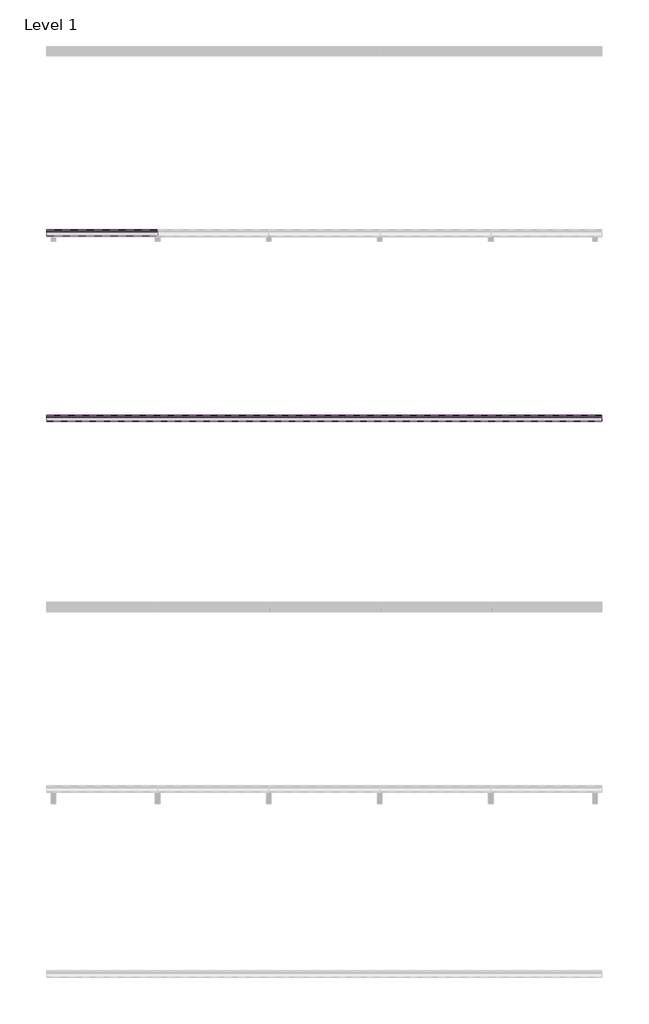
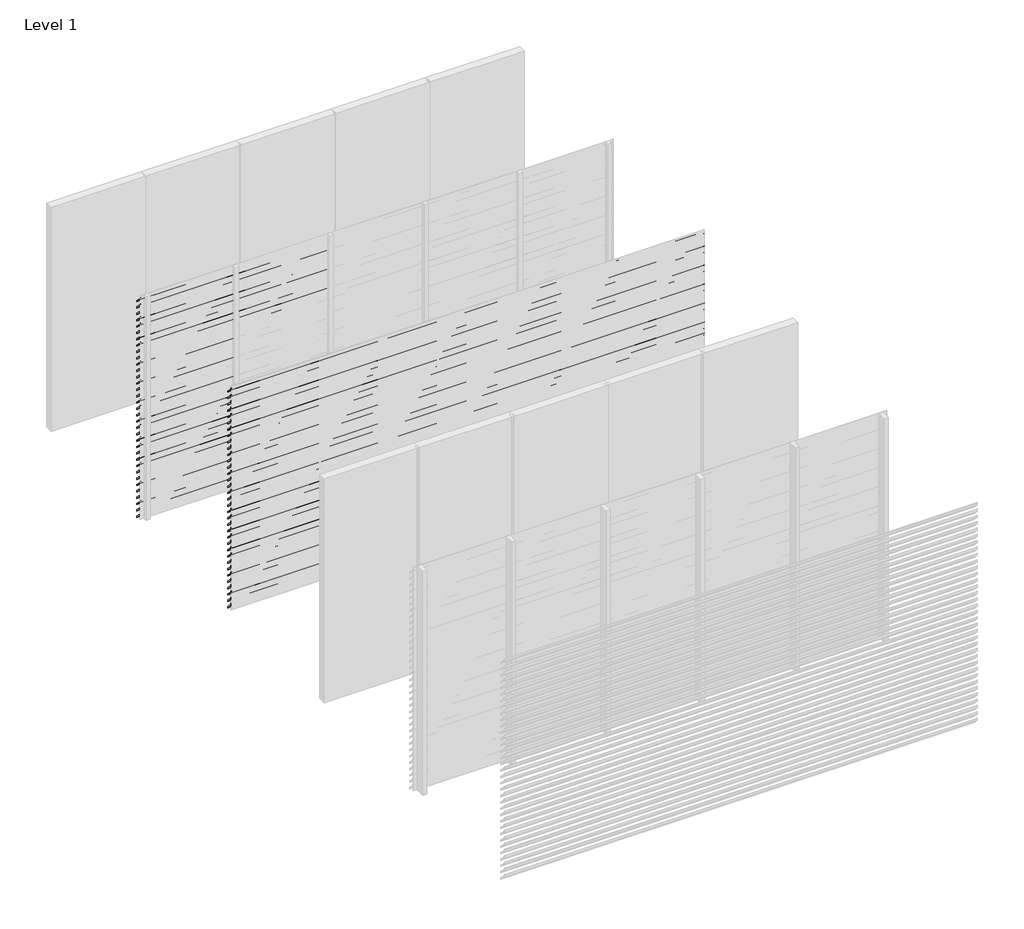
# One storey, part 4 of 10: 90 proxies.
"""IFC4 building model written with IfcOpenShell, lengths in millimetres."""

from ifc_helpers import new_model, si_unit, frame, origin, place, context, project, spatial, polyline, outline, extrude, element, save

model = new_model("IFC4")

# Units and contexts
model_context = context("Model", 3, world=origin())
ifc_project = project(units=[si_unit("LENGTHUNIT", "METRE", prefix="MILLI")], contexts=[model_context])

# Site, building, storey
site = spatial("IfcSite", under=ifc_project)
building = spatial("IfcBuilding", under=site)
storey = spatial("IfcBuildingStorey", under=building, Name="Level 1", Elevation=0.0)

# Proxies
placement = place(None, origin())
element("IfcBuildingElementProxy", 1, Name="Wall Sweeps", at=placement, inside=storey, context=model_context, shape_type="SweptSolid", body=[
    extrude(outline(polyline([(-11995.0, 2975.0), (-11995.0, 2962.0), (-11927.0, 2894.0), (-11927.0, 2876.0), (-11997.0, 2946.0), (-11997.0, 2975.0), (-11995.0, 2975.0)])), frame((0.0, 0.0, 0.0), z_axis=(1.0, 0.0, 0.0), x_axis=(0.0, 1.0, 0.0)), (0.0, 0.0, 1.0), 1200.0),
])
element("IfcBuildingElementProxy", 2, Name="Wall Sweeps", at=placement, inside=storey, context=model_context, shape_type="SweptSolid", body=[
    extrude(outline(polyline([(-11995.0, 2890.0), (-11995.0, 2877.0), (-11927.0, 2809.0), (-11927.0, 2791.0), (-11997.0, 2861.0), (-11997.0, 2890.0), (-11995.0, 2890.0)])), frame((0.0, 0.0, 0.0), z_axis=(1.0, 0.0, 0.0), x_axis=(0.0, 1.0, 0.0)), (0.0, 0.0, 1.0), 1200.0),
])
element("IfcBuildingElementProxy", 3, Name="Wall Sweeps", at=placement, inside=storey, context=model_context, shape_type="SweptSolid", body=[
    extrude(outline(polyline([(-11995.0, 2805.0), (-11995.0, 2792.0), (-11927.0, 2724.0), (-11927.0, 2706.0), (-11997.0, 2776.0), (-11997.0, 2805.0), (-11995.0, 2805.0)])), frame((0.0, 0.0, 0.0), z_axis=(1.0, 0.0, 0.0), x_axis=(0.0, 1.0, 0.0)), (0.0, 0.0, 1.0), 1200.0),
])
element("IfcBuildingElementProxy", 4, Name="Wall Sweeps", at=placement, inside=storey, context=model_context, shape_type="SweptSolid", body=[
    extrude(outline(polyline([(-11995.0, 2720.0), (-11995.0, 2707.0), (-11927.0, 2639.0), (-11927.0, 2621.0), (-11997.0, 2691.0), (-11997.0, 2720.0), (-11995.0, 2720.0)])), frame((0.0, 0.0, 0.0), z_axis=(1.0, 0.0, 0.0), x_axis=(0.0, 1.0, 0.0)), (0.0, 0.0, 1.0), 1200.0),
])
element("IfcBuildingElementProxy", 5, Name="Wall Sweeps", at=placement, inside=storey, context=model_context, shape_type="SweptSolid", body=[
    extrude(outline(polyline([(-11995.0, 2635.0), (-11995.0, 2622.0), (-11927.0, 2554.0), (-11927.0, 2536.0), (-11997.0, 2606.0), (-11997.0, 2635.0), (-11995.0, 2635.0)])), frame((0.0, 0.0, 0.0), z_axis=(1.0, 0.0, 0.0), x_axis=(0.0, 1.0, 0.0)), (0.0, 0.0, 1.0), 1200.0),
])
element("IfcBuildingElementProxy", 6, Name="Wall Sweeps", at=placement, inside=storey, context=model_context, shape_type="SweptSolid", body=[
    extrude(outline(polyline([(-11995.0, 2550.0), (-11995.0, 2537.0), (-11927.0, 2469.0), (-11927.0, 2451.0), (-11997.0, 2521.0), (-11997.0, 2550.0), (-11995.0, 2550.0)])), frame((0.0, 0.0, 0.0), z_axis=(1.0, 0.0, 0.0), x_axis=(0.0, 1.0, 0.0)), (0.0, 0.0, 1.0), 1200.0),
])
element("IfcBuildingElementProxy", 7, Name="Wall Sweeps", at=placement, inside=storey, context=model_context, shape_type="SweptSolid", body=[
    extrude(outline(polyline([(-11995.0, 2465.0), (-11995.0, 2452.0), (-11927.0, 2384.0), (-11927.0, 2366.0), (-11997.0, 2436.0), (-11997.0, 2465.0), (-11995.0, 2465.0)])), frame((0.0, 0.0, 0.0), z_axis=(1.0, 0.0, 0.0), x_axis=(0.0, 1.0, 0.0)), (0.0, 0.0, 1.0), 1200.0),
])
element("IfcBuildingElementProxy", 8, Name="Wall Sweeps", at=placement, inside=storey, context=model_context, shape_type="SweptSolid", body=[
    extrude(outline(polyline([(-11995.0, 2380.0), (-11995.0, 2367.0), (-11927.0, 2299.0), (-11927.0, 2281.0), (-11997.0, 2351.0), (-11997.0, 2380.0), (-11995.0, 2380.0)])), frame((0.0, 0.0, 0.0), z_axis=(1.0, 0.0, 0.0), x_axis=(0.0, 1.0, 0.0)), (0.0, 0.0, 1.0), 1200.0),
])
element("IfcBuildingElementProxy", 9, Name="Wall Sweeps", at=placement, inside=storey, context=model_context, shape_type="SweptSolid", body=[
    extrude(outline(polyline([(-11995.0, 2295.0), (-11995.0, 2282.0), (-11927.0, 2214.0), (-11927.0, 2196.0), (-11997.0, 2266.0), (-11997.0, 2295.0), (-11995.0, 2295.0)])), frame((0.0, 0.0, 0.0), z_axis=(1.0, 0.0, 0.0), x_axis=(0.0, 1.0, 0.0)), (0.0, 0.0, 1.0), 1200.0),
])
element("IfcBuildingElementProxy", 10, Name="Wall Sweeps", at=placement, inside=storey, context=model_context, shape_type="SweptSolid", body=[
    extrude(outline(polyline([(-11995.0, 2210.0), (-11995.0, 2197.0), (-11927.0, 2129.0), (-11927.0, 2111.0), (-11997.0, 2181.0), (-11997.0, 2210.0), (-11995.0, 2210.0)])), frame((0.0, 0.0, 0.0), z_axis=(1.0, 0.0, 0.0), x_axis=(0.0, 1.0, 0.0)), (0.0, 0.0, 1.0), 1200.0),
])
element("IfcBuildingElementProxy", 11, Name="Wall Sweeps", at=placement, inside=storey, context=model_context, shape_type="SweptSolid", body=[
    extrude(outline(polyline([(-11995.0, 2125.0), (-11995.0, 2112.0), (-11927.0, 2044.0), (-11927.0, 2026.0), (-11997.0, 2096.0), (-11997.0, 2125.0), (-11995.0, 2125.0)])), frame((0.0, 0.0, 0.0), z_axis=(1.0, 0.0, 0.0), x_axis=(0.0, 1.0, 0.0)), (0.0, 0.0, 1.0), 1200.0),
])
element("IfcBuildingElementProxy", 12, Name="Wall Sweeps", at=placement, inside=storey, context=model_context, shape_type="SweptSolid", body=[
    extrude(outline(polyline([(-11995.0, 2040.0), (-11995.0, 2027.0), (-11927.0, 1959.0), (-11927.0, 1941.0), (-11997.0, 2011.0), (-11997.0, 2040.0), (-11995.0, 2040.0)])), frame((0.0, 0.0, 0.0), z_axis=(1.0, 0.0, 0.0), x_axis=(0.0, 1.0, 0.0)), (0.0, 0.0, 1.0), 1200.0),
])
element("IfcBuildingElementProxy", 13, Name="Wall Sweeps", at=placement, inside=storey, context=model_context, shape_type="SweptSolid", body=[
    extrude(outline(polyline([(-11995.0, 1955.0), (-11995.0, 1942.0), (-11927.0, 1874.0), (-11927.0, 1856.0), (-11997.0, 1926.0), (-11997.0, 1955.0), (-11995.0, 1955.0)])), frame((0.0, 0.0, 0.0), z_axis=(1.0, 0.0, 0.0), x_axis=(0.0, 1.0, 0.0)), (0.0, 0.0, 1.0), 1200.0),
])
element("IfcBuildingElementProxy", 14, Name="Wall Sweeps", at=placement, inside=storey, context=model_context, shape_type="SweptSolid", body=[
    extrude(outline(polyline([(-11995.0, 1870.0), (-11995.0, 1857.0), (-11927.0, 1789.0), (-11927.0, 1771.0), (-11997.0, 1841.0), (-11997.0, 1870.0), (-11995.0, 1870.0)])), frame((0.0, 0.0, 0.0), z_axis=(1.0, 0.0, 0.0), x_axis=(0.0, 1.0, 0.0)), (0.0, 0.0, 1.0), 1200.0),
])
element("IfcBuildingElementProxy", 15, Name="Wall Sweeps", at=placement, inside=storey, context=model_context, shape_type="SweptSolid", body=[
    extrude(outline(polyline([(-11995.0, 1785.0), (-11995.0, 1772.0), (-11927.0, 1704.0), (-11927.0, 1686.0), (-11997.0, 1756.0), (-11997.0, 1785.0), (-11995.0, 1785.0)])), frame((0.0, 0.0, 0.0), z_axis=(1.0, 0.0, 0.0), x_axis=(0.0, 1.0, 0.0)), (0.0, 0.0, 1.0), 1200.0),
])
element("IfcBuildingElementProxy", 16, Name="Wall Sweeps", at=placement, inside=storey, context=model_context, shape_type="SweptSolid", body=[
    extrude(outline(polyline([(-11995.0, 1700.0), (-11995.0, 1687.0), (-11927.0, 1619.0), (-11927.0, 1601.0), (-11997.0, 1671.0), (-11997.0, 1700.0), (-11995.0, 1700.0)])), frame((0.0, 0.0, 0.0), z_axis=(1.0, 0.0, 0.0), x_axis=(0.0, 1.0, 0.0)), (0.0, 0.0, 1.0), 1200.0),
])
element("IfcBuildingElementProxy", 17, Name="Wall Sweeps", at=placement, inside=storey, context=model_context, shape_type="SweptSolid", body=[
    extrude(outline(polyline([(-11995.0, 1615.0), (-11995.0, 1602.0), (-11927.0, 1534.0), (-11927.0, 1516.0), (-11997.0, 1586.0), (-11997.0, 1615.0), (-11995.0, 1615.0)])), frame((0.0, 0.0, 0.0), z_axis=(1.0, 0.0, 0.0), x_axis=(0.0, 1.0, 0.0)), (0.0, 0.0, 1.0), 1200.0),
])
element("IfcBuildingElementProxy", 18, Name="Wall Sweeps", at=placement, inside=storey, context=model_context, shape_type="SweptSolid", body=[
    extrude(outline(polyline([(-11995.0, 1530.0), (-11995.0, 1517.0), (-11927.0, 1449.0), (-11927.0, 1431.0), (-11997.0, 1501.0), (-11997.0, 1530.0), (-11995.0, 1530.0)])), frame((0.0, 0.0, 0.0), z_axis=(1.0, 0.0, 0.0), x_axis=(0.0, 1.0, 0.0)), (0.0, 0.0, 1.0), 1200.0),
])
element("IfcBuildingElementProxy", 19, Name="Wall Sweeps", at=placement, inside=storey, context=model_context, shape_type="SweptSolid", body=[
    extrude(outline(polyline([(-11995.0, 1445.0), (-11995.0, 1432.0), (-11927.0, 1364.0), (-11927.0, 1346.0), (-11997.0, 1416.0), (-11997.0, 1445.0), (-11995.0, 1445.0)])), frame((0.0, 0.0, 0.0), z_axis=(1.0, 0.0, 0.0), x_axis=(0.0, 1.0, 0.0)), (0.0, 0.0, 1.0), 1200.0),
])
element("IfcBuildingElementProxy", 20, Name="Wall Sweeps", at=placement, inside=storey, context=model_context, shape_type="SweptSolid", body=[
    extrude(outline(polyline([(-11995.0, 1360.0), (-11995.0, 1347.0), (-11927.0, 1279.0), (-11927.0, 1261.0), (-11997.0, 1331.0), (-11997.0, 1360.0), (-11995.0, 1360.0)])), frame((0.0, 0.0, 0.0), z_axis=(1.0, 0.0, 0.0), x_axis=(0.0, 1.0, 0.0)), (0.0, 0.0, 1.0), 1200.0),
])
element("IfcBuildingElementProxy", 21, Name="Wall Sweeps", at=placement, inside=storey, context=model_context, shape_type="SweptSolid", body=[
    extrude(outline(polyline([(-11995.0, 1275.0), (-11995.0, 1262.0), (-11927.0, 1194.0), (-11927.0, 1176.0), (-11997.0, 1246.0), (-11997.0, 1275.0), (-11995.0, 1275.0)])), frame((0.0, 0.0, 0.0), z_axis=(1.0, 0.0, 0.0), x_axis=(0.0, 1.0, 0.0)), (0.0, 0.0, 1.0), 1200.0),
])
element("IfcBuildingElementProxy", 22, Name="Wall Sweeps", at=placement, inside=storey, context=model_context, shape_type="SweptSolid", body=[
    extrude(outline(polyline([(-11995.0, 1190.0), (-11995.0, 1177.0), (-11927.0, 1109.0), (-11927.0, 1091.0), (-11997.0, 1161.0), (-11997.0, 1190.0), (-11995.0, 1190.0)])), frame((0.0, 0.0, 0.0), z_axis=(1.0, 0.0, 0.0), x_axis=(0.0, 1.0, 0.0)), (0.0, 0.0, 1.0), 1200.0),
])
element("IfcBuildingElementProxy", 23, Name="Wall Sweeps", at=placement, inside=storey, context=model_context, shape_type="SweptSolid", body=[
    extrude(outline(polyline([(-11995.0, 1105.0), (-11995.0, 1092.0), (-11927.0, 1024.0), (-11927.0, 1006.0), (-11997.0, 1076.0), (-11997.0, 1105.0), (-11995.0, 1105.0)])), frame((0.0, 0.0, 0.0), z_axis=(1.0, 0.0, 0.0), x_axis=(0.0, 1.0, 0.0)), (0.0, 0.0, 1.0), 1200.0),
])
element("IfcBuildingElementProxy", 24, Name="Wall Sweeps", at=placement, inside=storey, context=model_context, shape_type="SweptSolid", body=[
    extrude(outline(polyline([(-11995.0, 1020.0), (-11995.0, 1007.0), (-11927.0, 939.0), (-11927.0, 921.0), (-11997.0, 991.0), (-11997.0, 1020.0), (-11995.0, 1020.0)])), frame((0.0, 0.0, 0.0), z_axis=(1.0, 0.0, 0.0), x_axis=(0.0, 1.0, 0.0)), (0.0, 0.0, 1.0), 1200.0),
])
element("IfcBuildingElementProxy", 25, Name="Wall Sweeps", at=placement, inside=storey, context=model_context, shape_type="SweptSolid", body=[
    extrude(outline(polyline([(-11995.0, 935.0), (-11995.0, 922.0), (-11927.0, 854.0), (-11927.0, 836.0), (-11997.0, 906.0), (-11997.0, 935.0), (-11995.0, 935.0)])), frame((0.0, 0.0, 0.0), z_axis=(1.0, 0.0, 0.0), x_axis=(0.0, 1.0, 0.0)), (0.0, 0.0, 1.0), 1200.0),
])
element("IfcBuildingElementProxy", 26, Name="Wall Sweeps", at=placement, inside=storey, context=model_context, shape_type="SweptSolid", body=[
    extrude(outline(polyline([(-11995.0, 850.0), (-11995.0, 837.0), (-11927.0, 769.0), (-11927.0, 751.0), (-11997.0, 821.0), (-11997.0, 850.0), (-11995.0, 850.0)])), frame((0.0, 0.0, 0.0), z_axis=(1.0, 0.0, 0.0), x_axis=(0.0, 1.0, 0.0)), (0.0, 0.0, 1.0), 1200.0),
])
element("IfcBuildingElementProxy", 27, Name="Wall Sweeps", at=placement, inside=storey, context=model_context, shape_type="SweptSolid", body=[
    extrude(outline(polyline([(-11995.0, 765.0), (-11995.0, 752.0), (-11927.0, 684.0), (-11927.0, 666.0), (-11997.0, 736.0), (-11997.0, 765.0), (-11995.0, 765.0)])), frame((0.0, 0.0, 0.0), z_axis=(1.0, 0.0, 0.0), x_axis=(0.0, 1.0, 0.0)), (0.0, 0.0, 1.0), 1200.0),
])
element("IfcBuildingElementProxy", 28, Name="Wall Sweeps", at=placement, inside=storey, context=model_context, shape_type="SweptSolid", body=[
    extrude(outline(polyline([(-11995.0, 680.0), (-11995.0, 667.0), (-11927.0, 599.0), (-11927.0, 581.0), (-11997.0, 651.0), (-11997.0, 680.0), (-11995.0, 680.0)])), frame((0.0, 0.0, 0.0), z_axis=(1.0, 0.0, 0.0), x_axis=(0.0, 1.0, 0.0)), (0.0, 0.0, 1.0), 1200.0),
])
element("IfcBuildingElementProxy", 29, Name="Wall Sweeps", at=placement, inside=storey, context=model_context, shape_type="SweptSolid", body=[
    extrude(outline(polyline([(-11995.0, 595.0), (-11995.0, 582.0), (-11927.0, 514.0), (-11927.0, 496.0), (-11997.0, 566.0), (-11997.0, 595.0), (-11995.0, 595.0)])), frame((0.0, 0.0, 0.0), z_axis=(1.0, 0.0, 0.0), x_axis=(0.0, 1.0, 0.0)), (0.0, 0.0, 1.0), 1200.0),
])
element("IfcBuildingElementProxy", 30, Name="Wall Sweeps", at=placement, inside=storey, context=model_context, shape_type="SweptSolid", body=[
    extrude(outline(polyline([(-11995.0, 510.0), (-11995.0, 497.0), (-11927.0, 429.0), (-11927.0, 411.0), (-11997.0, 481.0), (-11997.0, 510.0), (-11995.0, 510.0)])), frame((0.0, 0.0, 0.0), z_axis=(1.0, 0.0, 0.0), x_axis=(0.0, 1.0, 0.0)), (0.0, 0.0, 1.0), 1200.0),
])
element("IfcBuildingElementProxy", 31, Name="Wall Sweeps", at=placement, inside=storey, context=model_context, shape_type="SweptSolid", body=[
    extrude(outline(polyline([(-11995.0, 425.0), (-11995.0, 412.0), (-11927.0, 344.0), (-11927.0, 326.0), (-11997.0, 396.0), (-11997.0, 425.0), (-11995.0, 425.0)])), frame((0.0, 0.0, 0.0), z_axis=(1.0, 0.0, 0.0), x_axis=(0.0, 1.0, 0.0)), (0.0, 0.0, 1.0), 1200.0),
])
element("IfcBuildingElementProxy", 32, Name="Wall Sweeps", at=placement, inside=storey, context=model_context, shape_type="SweptSolid", body=[
    extrude(outline(polyline([(-11995.0, 340.0), (-11995.0, 327.0), (-11927.0, 259.0), (-11927.0, 241.0), (-11997.0, 311.0), (-11997.0, 340.0), (-11995.0, 340.0)])), frame((0.0, 0.0, 0.0), z_axis=(1.0, 0.0, 0.0), x_axis=(0.0, 1.0, 0.0)), (0.0, 0.0, 1.0), 1200.0),
])
element("IfcBuildingElementProxy", 33, Name="Wall Sweeps", at=placement, inside=storey, context=model_context, shape_type="SweptSolid", body=[
    extrude(outline(polyline([(-11995.0, 255.0), (-11995.0, 242.0), (-11927.0, 174.0), (-11927.0, 156.0), (-11997.0, 226.0), (-11997.0, 255.0), (-11995.0, 255.0)])), frame((0.0, 0.0, 0.0), z_axis=(1.0, 0.0, 0.0), x_axis=(0.0, 1.0, 0.0)), (0.0, 0.0, 1.0), 1200.0),
])
element("IfcBuildingElementProxy", 34, Name="Wall Sweeps", at=placement, inside=storey, context=model_context, shape_type="SweptSolid", body=[
    extrude(outline(polyline([(-11995.0, 170.0), (-11995.0, 157.0), (-11927.0, 89.0), (-11927.0, 71.0), (-11997.0, 141.0), (-11997.0, 170.0), (-11995.0, 170.0)])), frame((0.0, 0.0, 0.0), z_axis=(1.0, 0.0, 0.0), x_axis=(0.0, 1.0, 0.0)), (0.0, 0.0, 1.0), 1200.0),
])
element("IfcBuildingElementProxy", 35, Name="Wall Sweeps", at=placement, inside=storey, context=model_context, shape_type="SweptSolid", body=[
    extrude(outline(polyline([(-11995.0, 85.0), (-11995.0, 72.0), (-11927.0, 4.0), (-11927.0, -14.0), (-11997.0, 56.0), (-11997.0, 85.0), (-11995.0, 85.0)])), frame((0.0, 0.0, 0.0), z_axis=(1.0, 0.0, 0.0), x_axis=(0.0, 1.0, 0.0)), (0.0, 0.0, 1.0), 1200.0),
])
element("IfcBuildingElementProxy", 36, Name="Wall Sweeps", at=placement, inside=storey, context=model_context, shape_type="SweptSolid", body=[
    extrude(outline(polyline([(-11995.0, 2975.0), (-11995.0, 2962.0), (-11927.0, 2894.0), (-11927.0, 2876.0), (-11997.0, 2946.0), (-11997.0, 2975.0), (-11995.0, 2975.0)])), frame((1200.0, 0.0, 0.0), z_axis=(1.0, 0.0, 0.0), x_axis=(0.0, 1.0, 0.0)), (0.0, 0.0, 1.0), 1200.0),
])
element("IfcBuildingElementProxy", 37, Name="Wall Sweeps", at=placement, inside=storey, context=model_context, shape_type="SweptSolid", body=[
    extrude(outline(polyline([(-11995.0, 2890.0), (-11995.0, 2877.0), (-11927.0, 2809.0), (-11927.0, 2791.0), (-11997.0, 2861.0), (-11997.0, 2890.0), (-11995.0, 2890.0)])), frame((1200.0, 0.0, 0.0), z_axis=(1.0, 0.0, 0.0), x_axis=(0.0, 1.0, 0.0)), (0.0, 0.0, 1.0), 1200.0),
])
element("IfcBuildingElementProxy", 38, Name="Wall Sweeps", at=placement, inside=storey, context=model_context, shape_type="SweptSolid", body=[
    extrude(outline(polyline([(-11995.0, 2805.0), (-11995.0, 2792.0), (-11927.0, 2724.0), (-11927.0, 2706.0), (-11997.0, 2776.0), (-11997.0, 2805.0), (-11995.0, 2805.0)])), frame((1200.0, 0.0, 0.0), z_axis=(1.0, 0.0, 0.0), x_axis=(0.0, 1.0, 0.0)), (0.0, 0.0, 1.0), 1200.0),
])
element("IfcBuildingElementProxy", 39, Name="Wall Sweeps", at=placement, inside=storey, context=model_context, shape_type="SweptSolid", body=[
    extrude(outline(polyline([(-11995.0, 2720.0), (-11995.0, 2707.0), (-11927.0, 2639.0), (-11927.0, 2621.0), (-11997.0, 2691.0), (-11997.0, 2720.0), (-11995.0, 2720.0)])), frame((1200.0, 0.0, 0.0), z_axis=(1.0, 0.0, 0.0), x_axis=(0.0, 1.0, 0.0)), (0.0, 0.0, 1.0), 1200.0),
])
element("IfcBuildingElementProxy", 40, Name="Wall Sweeps", at=placement, inside=storey, context=model_context, shape_type="SweptSolid", body=[
    extrude(outline(polyline([(-11995.0, 2635.0), (-11995.0, 2622.0), (-11927.0, 2554.0), (-11927.0, 2536.0), (-11997.0, 2606.0), (-11997.0, 2635.0), (-11995.0, 2635.0)])), frame((1200.0, 0.0, 0.0), z_axis=(1.0, 0.0, 0.0), x_axis=(0.0, 1.0, 0.0)), (0.0, 0.0, 1.0), 1200.0),
])
element("IfcBuildingElementProxy", 41, Name="Wall Sweeps", at=placement, inside=storey, context=model_context, shape_type="SweptSolid", body=[
    extrude(outline(polyline([(-11995.0, 2550.0), (-11995.0, 2537.0), (-11927.0, 2469.0), (-11927.0, 2451.0), (-11997.0, 2521.0), (-11997.0, 2550.0), (-11995.0, 2550.0)])), frame((1200.0, 0.0, 0.0), z_axis=(1.0, 0.0, 0.0), x_axis=(0.0, 1.0, 0.0)), (0.0, 0.0, 1.0), 1200.0),
])
element("IfcBuildingElementProxy", 42, Name="Wall Sweeps", at=placement, inside=storey, context=model_context, shape_type="SweptSolid", body=[
    extrude(outline(polyline([(-11995.0, 2465.0), (-11995.0, 2452.0), (-11927.0, 2384.0), (-11927.0, 2366.0), (-11997.0, 2436.0), (-11997.0, 2465.0), (-11995.0, 2465.0)])), frame((1200.0, 0.0, 0.0), z_axis=(1.0, 0.0, 0.0), x_axis=(0.0, 1.0, 0.0)), (0.0, 0.0, 1.0), 1200.0),
])
element("IfcBuildingElementProxy", 43, Name="Wall Sweeps", at=placement, inside=storey, context=model_context, shape_type="SweptSolid", body=[
    extrude(outline(polyline([(-11995.0, 2380.0), (-11995.0, 2367.0), (-11927.0, 2299.0), (-11927.0, 2281.0), (-11997.0, 2351.0), (-11997.0, 2380.0), (-11995.0, 2380.0)])), frame((1200.0, 0.0, 0.0), z_axis=(1.0, 0.0, 0.0), x_axis=(0.0, 1.0, 0.0)), (0.0, 0.0, 1.0), 1200.0),
])
element("IfcBuildingElementProxy", 44, Name="Wall Sweeps", at=placement, inside=storey, context=model_context, shape_type="SweptSolid", body=[
    extrude(outline(polyline([(-11995.0, 2295.0), (-11995.0, 2282.0), (-11927.0, 2214.0), (-11927.0, 2196.0), (-11997.0, 2266.0), (-11997.0, 2295.0), (-11995.0, 2295.0)])), frame((1200.0, 0.0, 0.0), z_axis=(1.0, 0.0, 0.0), x_axis=(0.0, 1.0, 0.0)), (0.0, 0.0, 1.0), 1200.0),
])
element("IfcBuildingElementProxy", 45, Name="Wall Sweeps", at=placement, inside=storey, context=model_context, shape_type="SweptSolid", body=[
    extrude(outline(polyline([(-11995.0, 2210.0), (-11995.0, 2197.0), (-11927.0, 2129.0), (-11927.0, 2111.0), (-11997.0, 2181.0), (-11997.0, 2210.0), (-11995.0, 2210.0)])), frame((1200.0, 0.0, 0.0), z_axis=(1.0, 0.0, 0.0), x_axis=(0.0, 1.0, 0.0)), (0.0, 0.0, 1.0), 1200.0),
])
element("IfcBuildingElementProxy", 46, Name="Wall Sweeps", at=placement, inside=storey, context=model_context, shape_type="SweptSolid", body=[
    extrude(outline(polyline([(-13995.0, 2975.0), (-13995.0, 2962.0), (-13927.0, 2894.0), (-13927.0, 2876.0), (-13997.0, 2946.0), (-13997.0, 2975.0), (-13995.0, 2975.0)])), frame((0.0, 0.0, 0.0), z_axis=(1.0, 0.0, 0.0), x_axis=(0.0, 1.0, 0.0)), (0.0, 0.0, 1.0), 6000.0),
])
element("IfcBuildingElementProxy", 47, Name="Wall Sweeps", at=placement, inside=storey, context=model_context, shape_type="SweptSolid", body=[
    extrude(outline(polyline([(-13995.0, 2890.0), (-13995.0, 2877.0), (-13927.0, 2809.0), (-13927.0, 2791.0), (-13997.0, 2861.0), (-13997.0, 2890.0), (-13995.0, 2890.0)])), frame((0.0, 0.0, 0.0), z_axis=(1.0, 0.0, 0.0), x_axis=(0.0, 1.0, 0.0)), (0.0, 0.0, 1.0), 6000.0),
])
element("IfcBuildingElementProxy", 48, Name="Wall Sweeps", at=placement, inside=storey, context=model_context, shape_type="SweptSolid", body=[
    extrude(outline(polyline([(-13995.0, 2805.0), (-13995.0, 2792.0), (-13927.0, 2724.0), (-13927.0, 2706.0), (-13997.0, 2776.0), (-13997.0, 2805.0), (-13995.0, 2805.0)])), frame((0.0, 0.0, 0.0), z_axis=(1.0, 0.0, 0.0), x_axis=(0.0, 1.0, 0.0)), (0.0, 0.0, 1.0), 6000.0),
])
element("IfcBuildingElementProxy", 49, Name="Wall Sweeps", at=placement, inside=storey, context=model_context, shape_type="SweptSolid", body=[
    extrude(outline(polyline([(-13995.0, 2720.0), (-13995.0, 2707.0), (-13927.0, 2639.0), (-13927.0, 2621.0), (-13997.0, 2691.0), (-13997.0, 2720.0), (-13995.0, 2720.0)])), frame((0.0, 0.0, 0.0), z_axis=(1.0, 0.0, 0.0), x_axis=(0.0, 1.0, 0.0)), (0.0, 0.0, 1.0), 6000.0),
])
element("IfcBuildingElementProxy", 50, Name="Wall Sweeps", at=placement, inside=storey, context=model_context, shape_type="SweptSolid", body=[
    extrude(outline(polyline([(-13995.0, 2635.0), (-13995.0, 2622.0), (-13927.0, 2554.0), (-13927.0, 2536.0), (-13997.0, 2606.0), (-13997.0, 2635.0), (-13995.0, 2635.0)])), frame((0.0, 0.0, 0.0), z_axis=(1.0, 0.0, 0.0), x_axis=(0.0, 1.0, 0.0)), (0.0, 0.0, 1.0), 6000.0),
])
element("IfcBuildingElementProxy", 51, Name="Wall Sweeps", at=placement, inside=storey, context=model_context, shape_type="SweptSolid", body=[
    extrude(outline(polyline([(-13995.0, 2550.0), (-13995.0, 2537.0), (-13927.0, 2469.0), (-13927.0, 2451.0), (-13997.0, 2521.0), (-13997.0, 2550.0), (-13995.0, 2550.0)])), frame((0.0, 0.0, 0.0), z_axis=(1.0, 0.0, 0.0), x_axis=(0.0, 1.0, 0.0)), (0.0, 0.0, 1.0), 6000.0),
])
element("IfcBuildingElementProxy", 52, Name="Wall Sweeps", at=placement, inside=storey, context=model_context, shape_type="SweptSolid", body=[
    extrude(outline(polyline([(-13995.0, 2465.0), (-13995.0, 2452.0), (-13927.0, 2384.0), (-13927.0, 2366.0), (-13997.0, 2436.0), (-13997.0, 2465.0), (-13995.0, 2465.0)])), frame((0.0, 0.0, 0.0), z_axis=(1.0, 0.0, 0.0), x_axis=(0.0, 1.0, 0.0)), (0.0, 0.0, 1.0), 6000.0),
])
element("IfcBuildingElementProxy", 53, Name="Wall Sweeps", at=placement, inside=storey, context=model_context, shape_type="SweptSolid", body=[
    extrude(outline(polyline([(-13995.0, 2380.0), (-13995.0, 2367.0), (-13927.0, 2299.0), (-13927.0, 2281.0), (-13997.0, 2351.0), (-13997.0, 2380.0), (-13995.0, 2380.0)])), frame((0.0, 0.0, 0.0), z_axis=(1.0, 0.0, 0.0), x_axis=(0.0, 1.0, 0.0)), (0.0, 0.0, 1.0), 6000.0),
])
element("IfcBuildingElementProxy", 54, Name="Wall Sweeps", at=placement, inside=storey, context=model_context, shape_type="SweptSolid", body=[
    extrude(outline(polyline([(-13995.0, 2295.0), (-13995.0, 2282.0), (-13927.0, 2214.0), (-13927.0, 2196.0), (-13997.0, 2266.0), (-13997.0, 2295.0), (-13995.0, 2295.0)])), frame((0.0, 0.0, 0.0), z_axis=(1.0, 0.0, 0.0), x_axis=(0.0, 1.0, 0.0)), (0.0, 0.0, 1.0), 6000.0),
])
element("IfcBuildingElementProxy", 55, Name="Wall Sweeps", at=placement, inside=storey, context=model_context, shape_type="SweptSolid", body=[
    extrude(outline(polyline([(-13995.0, 2210.0), (-13995.0, 2197.0), (-13927.0, 2129.0), (-13927.0, 2111.0), (-13997.0, 2181.0), (-13997.0, 2210.0), (-13995.0, 2210.0)])), frame((0.0, 0.0, 0.0), z_axis=(1.0, 0.0, 0.0), x_axis=(0.0, 1.0, 0.0)), (0.0, 0.0, 1.0), 6000.0),
])
element("IfcBuildingElementProxy", 56, Name="Wall Sweeps", at=placement, inside=storey, context=model_context, shape_type="SweptSolid", body=[
    extrude(outline(polyline([(-13995.0, 2125.0), (-13995.0, 2112.0), (-13927.0, 2044.0), (-13927.0, 2026.0), (-13997.0, 2096.0), (-13997.0, 2125.0), (-13995.0, 2125.0)])), frame((0.0, 0.0, 0.0), z_axis=(1.0, 0.0, 0.0), x_axis=(0.0, 1.0, 0.0)), (0.0, 0.0, 1.0), 6000.0),
])
element("IfcBuildingElementProxy", 57, Name="Wall Sweeps", at=placement, inside=storey, context=model_context, shape_type="SweptSolid", body=[
    extrude(outline(polyline([(-13995.0, 2040.0), (-13995.0, 2027.0), (-13927.0, 1959.0), (-13927.0, 1941.0), (-13997.0, 2011.0), (-13997.0, 2040.0), (-13995.0, 2040.0)])), frame((0.0, 0.0, 0.0), z_axis=(1.0, 0.0, 0.0), x_axis=(0.0, 1.0, 0.0)), (0.0, 0.0, 1.0), 6000.0),
])
element("IfcBuildingElementProxy", 58, Name="Wall Sweeps", at=placement, inside=storey, context=model_context, shape_type="SweptSolid", body=[
    extrude(outline(polyline([(-13995.0, 1955.0), (-13995.0, 1942.0), (-13927.0, 1874.0), (-13927.0, 1856.0), (-13997.0, 1926.0), (-13997.0, 1955.0), (-13995.0, 1955.0)])), frame((0.0, 0.0, 0.0), z_axis=(1.0, 0.0, 0.0), x_axis=(0.0, 1.0, 0.0)), (0.0, 0.0, 1.0), 6000.0),
])
element("IfcBuildingElementProxy", 59, Name="Wall Sweeps", at=placement, inside=storey, context=model_context, shape_type="SweptSolid", body=[
    extrude(outline(polyline([(-13995.0, 1870.0), (-13995.0, 1857.0), (-13927.0, 1789.0), (-13927.0, 1771.0), (-13997.0, 1841.0), (-13997.0, 1870.0), (-13995.0, 1870.0)])), frame((0.0, 0.0, 0.0), z_axis=(1.0, 0.0, 0.0), x_axis=(0.0, 1.0, 0.0)), (0.0, 0.0, 1.0), 6000.0),
])
element("IfcBuildingElementProxy", 60, Name="Wall Sweeps", at=placement, inside=storey, context=model_context, shape_type="SweptSolid", body=[
    extrude(outline(polyline([(-13995.0, 1785.0), (-13995.0, 1772.0), (-13927.0, 1704.0), (-13927.0, 1686.0), (-13997.0, 1756.0), (-13997.0, 1785.0), (-13995.0, 1785.0)])), frame((0.0, 0.0, 0.0), z_axis=(1.0, 0.0, 0.0), x_axis=(0.0, 1.0, 0.0)), (0.0, 0.0, 1.0), 6000.0),
])
element("IfcBuildingElementProxy", 61, Name="Wall Sweeps", at=placement, inside=storey, context=model_context, shape_type="SweptSolid", body=[
    extrude(outline(polyline([(-13995.0, 1700.0), (-13995.0, 1687.0), (-13927.0, 1619.0), (-13927.0, 1601.0), (-13997.0, 1671.0), (-13997.0, 1700.0), (-13995.0, 1700.0)])), frame((0.0, 0.0, 0.0), z_axis=(1.0, 0.0, 0.0), x_axis=(0.0, 1.0, 0.0)), (0.0, 0.0, 1.0), 6000.0),
])
element("IfcBuildingElementProxy", 62, Name="Wall Sweeps", at=placement, inside=storey, context=model_context, shape_type="SweptSolid", body=[
    extrude(outline(polyline([(-13995.0, 1615.0), (-13995.0, 1602.0), (-13927.0, 1534.0), (-13927.0, 1516.0), (-13997.0, 1586.0), (-13997.0, 1615.0), (-13995.0, 1615.0)])), frame((0.0, 0.0, 0.0), z_axis=(1.0, 0.0, 0.0), x_axis=(0.0, 1.0, 0.0)), (0.0, 0.0, 1.0), 6000.0),
])
element("IfcBuildingElementProxy", 63, Name="Wall Sweeps", at=placement, inside=storey, context=model_context, shape_type="SweptSolid", body=[
    extrude(outline(polyline([(-13995.0, 1530.0), (-13995.0, 1517.0), (-13927.0, 1449.0), (-13927.0, 1431.0), (-13997.0, 1501.0), (-13997.0, 1530.0), (-13995.0, 1530.0)])), frame((0.0, 0.0, 0.0), z_axis=(1.0, 0.0, 0.0), x_axis=(0.0, 1.0, 0.0)), (0.0, 0.0, 1.0), 6000.0),
])
element("IfcBuildingElementProxy", 64, Name="Wall Sweeps", at=placement, inside=storey, context=model_context, shape_type="SweptSolid", body=[
    extrude(outline(polyline([(-13995.0, 1445.0), (-13995.0, 1432.0), (-13927.0, 1364.0), (-13927.0, 1346.0), (-13997.0, 1416.0), (-13997.0, 1445.0), (-13995.0, 1445.0)])), frame((0.0, 0.0, 0.0), z_axis=(1.0, 0.0, 0.0), x_axis=(0.0, 1.0, 0.0)), (0.0, 0.0, 1.0), 6000.0),
])
element("IfcBuildingElementProxy", 65, Name="Wall Sweeps", at=placement, inside=storey, context=model_context, shape_type="SweptSolid", body=[
    extrude(outline(polyline([(-13995.0, 1360.0), (-13995.0, 1347.0), (-13927.0, 1279.0), (-13927.0, 1261.0), (-13997.0, 1331.0), (-13997.0, 1360.0), (-13995.0, 1360.0)])), frame((0.0, 0.0, 0.0), z_axis=(1.0, 0.0, 0.0), x_axis=(0.0, 1.0, 0.0)), (0.0, 0.0, 1.0), 6000.0),
])
element("IfcBuildingElementProxy", 66, Name="Wall Sweeps", at=placement, inside=storey, context=model_context, shape_type="SweptSolid", body=[
    extrude(outline(polyline([(-13995.0, 1275.0), (-13995.0, 1262.0), (-13927.0, 1194.0), (-13927.0, 1176.0), (-13997.0, 1246.0), (-13997.0, 1275.0), (-13995.0, 1275.0)])), frame((0.0, 0.0, 0.0), z_axis=(1.0, 0.0, 0.0), x_axis=(0.0, 1.0, 0.0)), (0.0, 0.0, 1.0), 6000.0),
])
element("IfcBuildingElementProxy", 67, Name="Wall Sweeps", at=placement, inside=storey, context=model_context, shape_type="SweptSolid", body=[
    extrude(outline(polyline([(-13995.0, 1190.0), (-13995.0, 1177.0), (-13927.0, 1109.0), (-13927.0, 1091.0), (-13997.0, 1161.0), (-13997.0, 1190.0), (-13995.0, 1190.0)])), frame((0.0, 0.0, 0.0), z_axis=(1.0, 0.0, 0.0), x_axis=(0.0, 1.0, 0.0)), (0.0, 0.0, 1.0), 6000.0),
])
element("IfcBuildingElementProxy", 68, Name="Wall Sweeps", at=placement, inside=storey, context=model_context, shape_type="SweptSolid", body=[
    extrude(outline(polyline([(-13995.0, 1105.0), (-13995.0, 1092.0), (-13927.0, 1024.0), (-13927.0, 1006.0), (-13997.0, 1076.0), (-13997.0, 1105.0), (-13995.0, 1105.0)])), frame((0.0, 0.0, 0.0), z_axis=(1.0, 0.0, 0.0), x_axis=(0.0, 1.0, 0.0)), (0.0, 0.0, 1.0), 6000.0),
])
element("IfcBuildingElementProxy", 69, Name="Wall Sweeps", at=placement, inside=storey, context=model_context, shape_type="SweptSolid", body=[
    extrude(outline(polyline([(-13995.0, 1020.0), (-13995.0, 1007.0), (-13927.0, 939.0), (-13927.0, 921.0), (-13997.0, 991.0), (-13997.0, 1020.0), (-13995.0, 1020.0)])), frame((0.0, 0.0, 0.0), z_axis=(1.0, 0.0, 0.0), x_axis=(0.0, 1.0, 0.0)), (0.0, 0.0, 1.0), 6000.0),
])
element("IfcBuildingElementProxy", 70, Name="Wall Sweeps", at=placement, inside=storey, context=model_context, shape_type="SweptSolid", body=[
    extrude(outline(polyline([(-13995.0, 935.0), (-13995.0, 922.0), (-13927.0, 854.0), (-13927.0, 836.0), (-13997.0, 906.0), (-13997.0, 935.0), (-13995.0, 935.0)])), frame((0.0, 0.0, 0.0), z_axis=(1.0, 0.0, 0.0), x_axis=(0.0, 1.0, 0.0)), (0.0, 0.0, 1.0), 6000.0),
])
element("IfcBuildingElementProxy", 71, Name="Wall Sweeps", at=placement, inside=storey, context=model_context, shape_type="SweptSolid", body=[
    extrude(outline(polyline([(-13995.0, 850.0), (-13995.0, 837.0), (-13927.0, 769.0), (-13927.0, 751.0), (-13997.0, 821.0), (-13997.0, 850.0), (-13995.0, 850.0)])), frame((0.0, 0.0, 0.0), z_axis=(1.0, 0.0, 0.0), x_axis=(0.0, 1.0, 0.0)), (0.0, 0.0, 1.0), 6000.0),
])
element("IfcBuildingElementProxy", 72, Name="Wall Sweeps", at=placement, inside=storey, context=model_context, shape_type="SweptSolid", body=[
    extrude(outline(polyline([(-13995.0, 765.0), (-13995.0, 752.0), (-13927.0, 684.0), (-13927.0, 666.0), (-13997.0, 736.0), (-13997.0, 765.0), (-13995.0, 765.0)])), frame((0.0, 0.0, 0.0), z_axis=(1.0, 0.0, 0.0), x_axis=(0.0, 1.0, 0.0)), (0.0, 0.0, 1.0), 6000.0),
])
element("IfcBuildingElementProxy", 73, Name="Wall Sweeps", at=placement, inside=storey, context=model_context, shape_type="SweptSolid", body=[
    extrude(outline(polyline([(-13995.0, 680.0), (-13995.0, 667.0), (-13927.0, 599.0), (-13927.0, 581.0), (-13997.0, 651.0), (-13997.0, 680.0), (-13995.0, 680.0)])), frame((0.0, 0.0, 0.0), z_axis=(1.0, 0.0, 0.0), x_axis=(0.0, 1.0, 0.0)), (0.0, 0.0, 1.0), 6000.0),
])
element("IfcBuildingElementProxy", 74, Name="Wall Sweeps", at=placement, inside=storey, context=model_context, shape_type="SweptSolid", body=[
    extrude(outline(polyline([(-13995.0, 595.0), (-13995.0, 582.0), (-13927.0, 514.0), (-13927.0, 496.0), (-13997.0, 566.0), (-13997.0, 595.0), (-13995.0, 595.0)])), frame((0.0, 0.0, 0.0), z_axis=(1.0, 0.0, 0.0), x_axis=(0.0, 1.0, 0.0)), (0.0, 0.0, 1.0), 6000.0),
])
element("IfcBuildingElementProxy", 75, Name="Wall Sweeps", at=placement, inside=storey, context=model_context, shape_type="SweptSolid", body=[
    extrude(outline(polyline([(-13995.0, 510.0), (-13995.0, 497.0), (-13927.0, 429.0), (-13927.0, 411.0), (-13997.0, 481.0), (-13997.0, 510.0), (-13995.0, 510.0)])), frame((0.0, 0.0, 0.0), z_axis=(1.0, 0.0, 0.0), x_axis=(0.0, 1.0, 0.0)), (0.0, 0.0, 1.0), 6000.0),
])
element("IfcBuildingElementProxy", 76, Name="Wall Sweeps", at=placement, inside=storey, context=model_context, shape_type="SweptSolid", body=[
    extrude(outline(polyline([(-13995.0, 425.0), (-13995.0, 412.0), (-13927.0, 344.0), (-13927.0, 326.0), (-13997.0, 396.0), (-13997.0, 425.0), (-13995.0, 425.0)])), frame((0.0, 0.0, 0.0), z_axis=(1.0, 0.0, 0.0), x_axis=(0.0, 1.0, 0.0)), (0.0, 0.0, 1.0), 6000.0),
])
element("IfcBuildingElementProxy", 77, Name="Wall Sweeps", at=placement, inside=storey, context=model_context, shape_type="SweptSolid", body=[
    extrude(outline(polyline([(-13995.0, 340.0), (-13995.0, 327.0), (-13927.0, 259.0), (-13927.0, 241.0), (-13997.0, 311.0), (-13997.0, 340.0), (-13995.0, 340.0)])), frame((0.0, 0.0, 0.0), z_axis=(1.0, 0.0, 0.0), x_axis=(0.0, 1.0, 0.0)), (0.0, 0.0, 1.0), 6000.0),
])
element("IfcBuildingElementProxy", 78, Name="Wall Sweeps", at=placement, inside=storey, context=model_context, shape_type="SweptSolid", body=[
    extrude(outline(polyline([(-13995.0, 255.0), (-13995.0, 242.0), (-13927.0, 174.0), (-13927.0, 156.0), (-13997.0, 226.0), (-13997.0, 255.0), (-13995.0, 255.0)])), frame((0.0, 0.0, 0.0), z_axis=(1.0, 0.0, 0.0), x_axis=(0.0, 1.0, 0.0)), (0.0, 0.0, 1.0), 6000.0),
])
element("IfcBuildingElementProxy", 79, Name="Wall Sweeps", at=placement, inside=storey, context=model_context, shape_type="SweptSolid", body=[
    extrude(outline(polyline([(-13995.0, 170.0), (-13995.0, 157.0), (-13927.0, 89.0), (-13927.0, 71.0), (-13997.0, 141.0), (-13997.0, 170.0), (-13995.0, 170.0)])), frame((0.0, 0.0, 0.0), z_axis=(1.0, 0.0, 0.0), x_axis=(0.0, 1.0, 0.0)), (0.0, 0.0, 1.0), 6000.0),
])
element("IfcBuildingElementProxy", 80, Name="Wall Sweeps", at=placement, inside=storey, context=model_context, shape_type="SweptSolid", body=[
    extrude(outline(polyline([(-13995.0, 85.0), (-13995.0, 72.0), (-13927.0, 4.0), (-13927.0, -14.0), (-13997.0, 56.0), (-13997.0, 85.0), (-13995.0, 85.0)])), frame((0.0, 0.0, 0.0), z_axis=(1.0, 0.0, 0.0), x_axis=(0.0, 1.0, 0.0)), (0.0, 0.0, 1.0), 6000.0),
])
element("IfcBuildingElementProxy", 81, Name="Wall Sweeps", at=placement, inside=storey, context=model_context, shape_type="SweptSolid", body=[
    extrude(outline(polyline([(-17995.0, 850.0), (-17995.0, 837.0), (-17927.0, 769.0), (-17927.0, 751.0), (-17997.0, 821.0), (-17997.0, 850.0), (-17995.0, 850.0)])), frame((4799.9999998, 0.0, 0.0), z_axis=(1.0, 0.0, 0.0), x_axis=(0.0, 1.0, 0.0)), (0.0, 0.0, 1.0), 1200.0000002),
])
element("IfcBuildingElementProxy", 82, Name="Wall Sweeps", at=placement, inside=storey, context=model_context, shape_type="SweptSolid", body=[
    extrude(outline(polyline([(-17995.0, 765.0), (-17995.0, 752.0), (-17927.0, 684.0), (-17927.0, 666.0), (-17997.0, 736.0), (-17997.0, 765.0), (-17995.0, 765.0)])), frame((4799.9999998, 0.0, 0.0), z_axis=(1.0, 0.0, 0.0), x_axis=(0.0, 1.0, 0.0)), (0.0, 0.0, 1.0), 1200.0000002),
])
element("IfcBuildingElementProxy", 83, Name="Wall Sweeps", at=placement, inside=storey, context=model_context, shape_type="SweptSolid", body=[
    extrude(outline(polyline([(-17995.0, 680.0), (-17995.0, 667.0), (-17927.0, 599.0), (-17927.0, 581.0), (-17997.0, 651.0), (-17997.0, 680.0), (-17995.0, 680.0)])), frame((4799.9999998, 0.0, 0.0), z_axis=(1.0, 0.0, 0.0), x_axis=(0.0, 1.0, 0.0)), (0.0, 0.0, 1.0), 1200.0000002),
])
element("IfcBuildingElementProxy", 84, Name="Wall Sweeps", at=placement, inside=storey, context=model_context, shape_type="SweptSolid", body=[
    extrude(outline(polyline([(-17995.0, 595.0), (-17995.0, 582.0), (-17927.0, 514.0), (-17927.0, 496.0), (-17997.0, 566.0), (-17997.0, 595.0), (-17995.0, 595.0)])), frame((4799.9999998, 0.0, 0.0), z_axis=(1.0, 0.0, 0.0), x_axis=(0.0, 1.0, 0.0)), (0.0, 0.0, 1.0), 1200.0000002),
])
element("IfcBuildingElementProxy", 85, Name="Wall Sweeps", at=placement, inside=storey, context=model_context, shape_type="SweptSolid", body=[
    extrude(outline(polyline([(-17995.0, 510.0), (-17995.0, 497.0), (-17927.0, 429.0), (-17927.0, 411.0), (-17997.0, 481.0), (-17997.0, 510.0), (-17995.0, 510.0)])), frame((4799.9999998, 0.0, 0.0), z_axis=(1.0, 0.0, 0.0), x_axis=(0.0, 1.0, 0.0)), (0.0, 0.0, 1.0), 1200.0000002),
])
element("IfcBuildingElementProxy", 86, Name="Wall Sweeps", at=placement, inside=storey, context=model_context, shape_type="SweptSolid", body=[
    extrude(outline(polyline([(-17995.0, 425.0), (-17995.0, 412.0), (-17927.0, 344.0), (-17927.0, 326.0), (-17997.0, 396.0), (-17997.0, 425.0), (-17995.0, 425.0)])), frame((4799.9999998, 0.0, 0.0), z_axis=(1.0, 0.0, 0.0), x_axis=(0.0, 1.0, 0.0)), (0.0, 0.0, 1.0), 1200.0000002),
])
element("IfcBuildingElementProxy", 87, Name="Wall Sweeps", at=placement, inside=storey, context=model_context, shape_type="SweptSolid", body=[
    extrude(outline(polyline([(-17995.0, 340.0), (-17995.0, 327.0), (-17927.0, 259.0), (-17927.0, 241.0), (-17997.0, 311.0), (-17997.0, 340.0), (-17995.0, 340.0)])), frame((4799.9999998, 0.0, 0.0), z_axis=(1.0, 0.0, 0.0), x_axis=(0.0, 1.0, 0.0)), (0.0, 0.0, 1.0), 1200.0000002),
])
element("IfcBuildingElementProxy", 88, Name="Wall Sweeps", at=placement, inside=storey, context=model_context, shape_type="SweptSolid", body=[
    extrude(outline(polyline([(-17995.0, 255.0), (-17995.0, 242.0), (-17927.0, 174.0), (-17927.0, 156.0), (-17997.0, 226.0), (-17997.0, 255.0), (-17995.0, 255.0)])), frame((4799.9999998, 0.0, 0.0), z_axis=(1.0, 0.0, 0.0), x_axis=(0.0, 1.0, 0.0)), (0.0, 0.0, 1.0), 1200.0000002),
])
element("IfcBuildingElementProxy", 89, Name="Wall Sweeps", at=placement, inside=storey, context=model_context, shape_type="SweptSolid", body=[
    extrude(outline(polyline([(-17995.0, 170.0), (-17995.0, 157.0), (-17927.0, 89.0), (-17927.0, 71.0), (-17997.0, 141.0), (-17997.0, 170.0), (-17995.0, 170.0)])), frame((4799.9999998, 0.0, 0.0), z_axis=(1.0, 0.0, 0.0), x_axis=(0.0, 1.0, 0.0)), (0.0, 0.0, 1.0), 1200.0000002),
])
element("IfcBuildingElementProxy", 90, Name="Wall Sweeps", at=placement, inside=storey, context=model_context, shape_type="SweptSolid", body=[
    extrude(outline(polyline([(-17995.0, 85.0), (-17995.0, 72.0), (-17927.0, 4.0), (-17927.0, -14.0), (-17997.0, 56.0), (-17997.0, 85.0), (-17995.0, 85.0)])), frame((4799.9999998, 0.0, 0.0), z_axis=(1.0, 0.0, 0.0), x_axis=(0.0, 1.0, 0.0)), (0.0, 0.0, 1.0), 1200.0000002),
])

save(model, "model.ifc")
